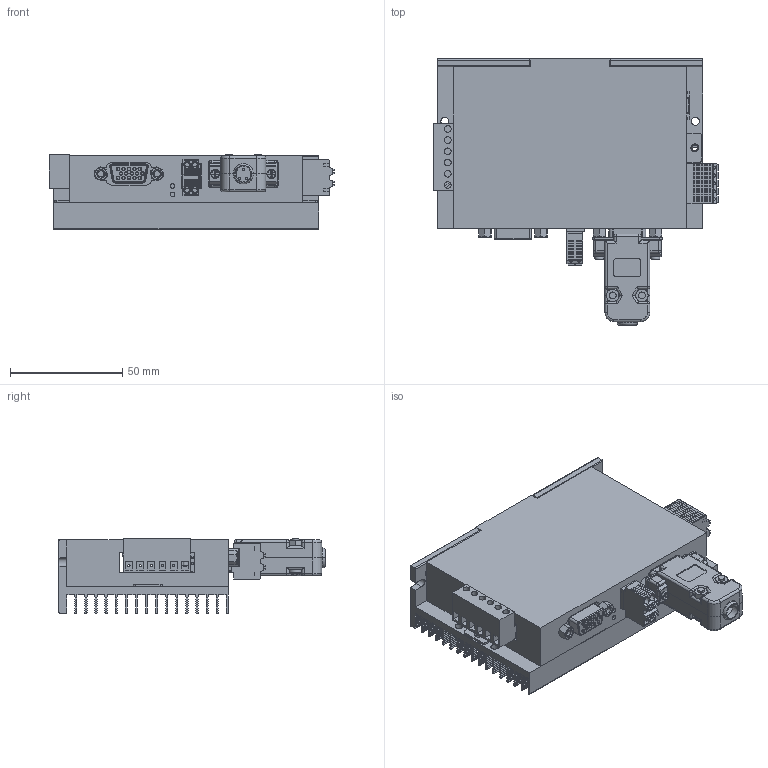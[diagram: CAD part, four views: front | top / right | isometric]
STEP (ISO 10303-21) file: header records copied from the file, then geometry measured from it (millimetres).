
FILE_DESCRIPTION(/* description */ ('Unknown'),/* implementation_level */ '2;1');
FILE_NAME(/* name */ 'CSD225驅動器',/* time_stamp */ '2025-10-02T10:04:34+08:00',/* author */ ('Unknown'),/* organization */ ('Unknown'),/* preprocessor_version */ 'ST-DEVELOPER v16.7',/* originating_system */ 'DEX',/* authorisation */ $);
FILE_SCHEMA (('AUTOMOTIVE_DESIGN {1 0 10303 214 3 1 1}'));
Products named in the file (33): CSD225驅動; DSub connector plastic cover; d-sub9_male; PartPlasticCover; ScrewPlasticCover; ClampPlasticCover; hex nut style 1 gradeab_iso; pan head cross recess screw_iso7045; XHB2.54-4PIN-black-with lock; XHB2.54-4PIN-black; N5; pin5; N5 Geometry; M5; pich5; M5 Geometry; DB9-9PIN; Pino grande; Pino pequeno; Porca; Parafuso sextavado; Trava; Chapa frontal; Corpo plastico; DB9-15PIN; 15PIN; CSD225-外; FT9Z-10P; FT9Z-4P; 4 Way 2mm Pitch JST Connector - Female; 15EDGVHD-3.5-10P; 15EDGVHD-3.5-04P-14-00A(H); CSD225-本
Assembly tree (49 placements, depth 3):
  CSD225驅動
    DSub connector plastic cover
      d-sub9_male
      PartPlasticCover  x2
      ScrewPlasticCover  x2
      ClampPlasticCover  x2
      hex nut style 1 gradeab_iso  x2
      pan head cross recess screw_iso7045  x2
    XHB2.54-4PIN-black-with lock
      XHB2.54-4PIN-black
    N5
      pin5
      N5 Geometry
    M5
      pich5
      M5 Geometry
    DB9-9PIN
      Pino grande  x5
      Pino pequeno  x4
      Porca  x2
      Parafuso sextavado  x2
      Trava  x2
      Chapa frontal
      Corpo plastico
    DB9-15PIN
      Parafuso sextavado  x2
      15PIN
    CSD225-外
    FT9Z-10P
    FT9Z-4P
    4 Way 2mm Pitch JST Connector - Female
    15EDGVHD-3.5-10P
    15EDGVHD-3.5-04P-14-00A(H)
    CSD225-本
Bounding box: 127.26 x 118.5 x 33.55 mm (x, y, z)
Volume: 95846 mm3; surface area: 114614.9 mm2
Topology: 43 solids, 43 shells, 3916 faces, 10454 edges, 6812 vertices
Faces by surface type: plane 2804, cylinder 829, cone 113, bspline 84, torus 53, sphere 33
Full cylindrical faces by diameter (mm): 0.8 x15, 0.9 x9, 1 x41, 1.27 x15, 1.4 x2, 1.5 x2, 2 x3, 2.4 x2, 2.5 x12, 2.7 x16, 2.8 x4, 3 x31, 3.1 x8, 3.5 x6, 5.6 x2
Entity records: 119234 total; most frequent: CARTESIAN_POINT 27372, ORIENTED_EDGE 18530, DIRECTION 17494, EDGE_CURVE 9265, LINE 7098, VECTOR 7098, VERTEX_POINT 6192, AXIS2_PLACEMENT_3D 5198
